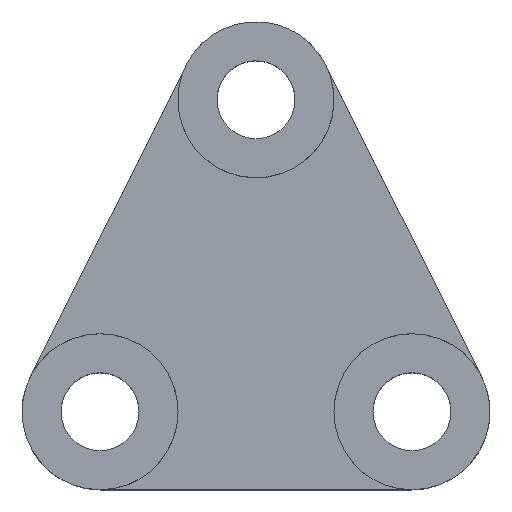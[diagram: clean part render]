
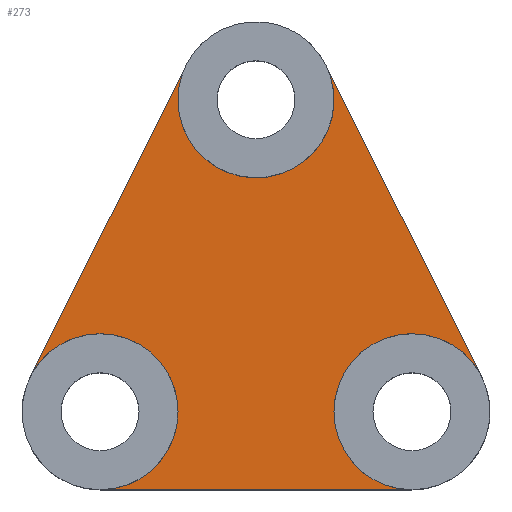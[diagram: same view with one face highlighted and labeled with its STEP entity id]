
A CAD part, top view. The second image highlights one B-rep face of the part: STEP entity #273.
In plain terms, the highlighted planar face has unit normal (0, 0, 1).
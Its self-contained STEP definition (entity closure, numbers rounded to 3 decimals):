
#21=LINE('',#458,#39);
#22=LINE('',#464,#40);
#23=LINE('',#467,#41);
#39=VECTOR('',#371,10.);
#40=VECTOR('',#376,10.);
#41=VECTOR('',#379,10.);
#66=FACE_OUTER_BOUND('',#83,.T.);
#83=EDGE_LOOP('',(#193,#194,#195,#196,#197,#198,#199,#200));
#106=CIRCLE('',#317,10.);
#107=CIRCLE('',#318,10.);
#108=CIRCLE('',#319,10.);
#109=CIRCLE('',#320,10.);
#110=CIRCLE('',#321,10.);
#127=VERTEX_POINT('',#452);
#128=VERTEX_POINT('',#453);
#129=VERTEX_POINT('',#455);
#130=VERTEX_POINT('',#457);
#131=VERTEX_POINT('',#459);
#132=VERTEX_POINT('',#461);
#133=VERTEX_POINT('',#463);
#134=VERTEX_POINT('',#465);
#154=EDGE_CURVE('',#127,#128,#106,.T.);
#155=EDGE_CURVE('',#128,#129,#107,.T.);
#156=EDGE_CURVE('',#129,#130,#21,.T.);
#157=EDGE_CURVE('',#130,#131,#108,.T.);
#158=EDGE_CURVE('',#131,#132,#109,.T.);
#159=EDGE_CURVE('',#132,#133,#22,.T.);
#160=EDGE_CURVE('',#133,#134,#110,.T.);
#161=EDGE_CURVE('',#134,#127,#23,.T.);
#193=ORIENTED_EDGE('',*,*,#154,.T.);
#194=ORIENTED_EDGE('',*,*,#155,.T.);
#195=ORIENTED_EDGE('',*,*,#156,.T.);
#196=ORIENTED_EDGE('',*,*,#157,.T.);
#197=ORIENTED_EDGE('',*,*,#158,.T.);
#198=ORIENTED_EDGE('',*,*,#159,.T.);
#199=ORIENTED_EDGE('',*,*,#160,.T.);
#200=ORIENTED_EDGE('',*,*,#161,.T.);
#265=PLANE('',#316);
#273=ADVANCED_FACE('',(#66),#265,.T.);
#316=AXIS2_PLACEMENT_3D('',#451,#365,#366);
#317=AXIS2_PLACEMENT_3D('',#454,#367,#368);
#318=AXIS2_PLACEMENT_3D('',#456,#369,#370);
#319=AXIS2_PLACEMENT_3D('',#460,#372,#373);
#320=AXIS2_PLACEMENT_3D('',#462,#374,#375);
#321=AXIS2_PLACEMENT_3D('',#466,#377,#378);
#365=DIRECTION('center_axis',(0.,0.,1.));
#366=DIRECTION('ref_axis',(1.,0.,0.));
#367=DIRECTION('center_axis',(0.,0.,-1.));
#368=DIRECTION('ref_axis',(1.,0.,0.));
#369=DIRECTION('center_axis',(0.,0.,-1.));
#370=DIRECTION('ref_axis',(1.,0.,0.));
#371=DIRECTION('',(-0.447,0.894,0.));
#372=DIRECTION('center_axis',(0.,0.,-1.));
#373=DIRECTION('ref_axis',(1.,0.,0.));
#374=DIRECTION('center_axis',(0.,0.,-1.));
#375=DIRECTION('ref_axis',(1.,0.,0.));
#376=DIRECTION('',(-0.447,-0.894,0.));
#377=DIRECTION('center_axis',(0.,0.,-1.));
#378=DIRECTION('ref_axis',(1.,0.,0.));
#379=DIRECTION('',(1.,0.,0.));
#451=CARTESIAN_POINT('Origin',(0.,0.,0.));
#452=CARTESIAN_POINT('',(20.,-30.,0.));
#453=CARTESIAN_POINT('',(10.,-20.,0.));
#454=CARTESIAN_POINT('Origin',(20.,-20.,0.));
#455=CARTESIAN_POINT('',(28.944,-15.528,0.));
#456=CARTESIAN_POINT('Origin',(20.,-20.,0.));
#457=CARTESIAN_POINT('',(8.944,24.472,0.));
#458=CARTESIAN_POINT('',(28.944,-15.528,0.));
#459=CARTESIAN_POINT('',(-10.,20.,0.));
#460=CARTESIAN_POINT('Origin',(0.,20.,0.));
#461=CARTESIAN_POINT('',(-8.944,24.472,0.));
#462=CARTESIAN_POINT('Origin',(0.,20.,0.));
#463=CARTESIAN_POINT('',(-28.944,-15.528,0.));
#464=CARTESIAN_POINT('',(-8.944,24.472,0.));
#465=CARTESIAN_POINT('',(-20.,-30.,0.));
#466=CARTESIAN_POINT('Origin',(-20.,-20.,0.));
#467=CARTESIAN_POINT('',(-20.,-30.,0.));
